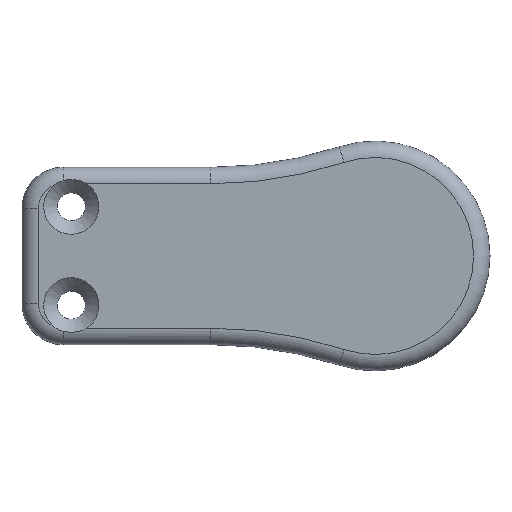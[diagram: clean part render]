
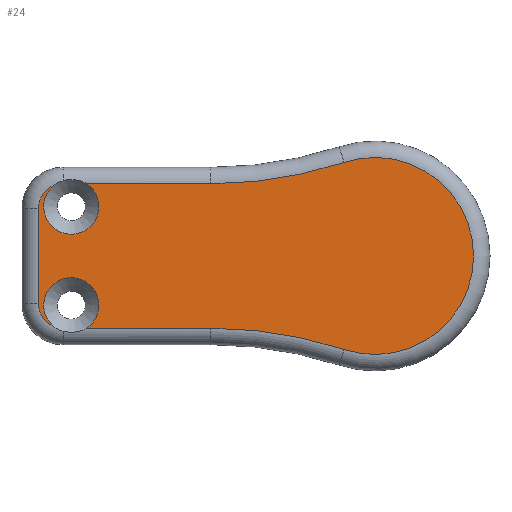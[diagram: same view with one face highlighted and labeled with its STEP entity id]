
A CAD part, top view. The second image highlights one B-rep face of the part: STEP entity #24.
In plain terms, the highlighted planar face has unit normal (0, 0, 1).
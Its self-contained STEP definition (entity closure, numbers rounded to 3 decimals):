
#1 = DIRECTION ( 'NONE',  ( 1., 0., 0. ) ) ;
#8 = VERTEX_POINT ( 'NONE', #438 ) ;
#22 = DIRECTION ( 'NONE',  ( 1., 0., 0. ) ) ;
#24 = ADVANCED_FACE ( 'NONE', ( #265 ), #985, .T. ) ;
#34 = ORIENTED_EDGE ( 'NONE', *, *, #835, .F. ) ;
#58 = CARTESIAN_POINT ( 'NONE',  ( -3.747, -11.4, 4. ) ) ;
#64 = DIRECTION ( 'NONE',  ( 0., -1., 0. ) ) ;
#66 = ORIENTED_EDGE ( 'NONE', *, *, #1003, .T. ) ;
#90 = DIRECTION ( 'NONE',  ( 1., 0., 0. ) ) ;
#94 = DIRECTION ( 'NONE',  ( -1., 0., 0. ) ) ;
#100 = ORIENTED_EDGE ( 'NONE', *, *, #338, .T. ) ;
#107 = AXIS2_PLACEMENT_3D ( 'NONE', #681, #885, #149 ) ;
#110 = ORIENTED_EDGE ( 'NONE', *, *, #645, .F. ) ;
#116 = EDGE_CURVE ( 'NONE', #605, #119, #323, .T. ) ;
#119 = VERTEX_POINT ( 'NONE', #996 ) ;
#122 = AXIS2_PLACEMENT_3D ( 'NONE', #808, #820, #22 ) ;
#144 = CIRCLE ( 'NONE', #1008, 3.36 ) ;
#145 = ORIENTED_EDGE ( 'NONE', *, *, #230, .T. ) ;
#149 = DIRECTION ( 'NONE',  ( 1., 0., 0. ) ) ;
#152 = DIRECTION ( 'NONE',  ( 0., 0., 1. ) ) ;
#230 = EDGE_CURVE ( 'NONE', #612, #966, #869, .T. ) ;
#240 = CARTESIAN_POINT ( 'NONE',  ( -37., 6., 4. ) ) ;
#242 = EDGE_LOOP ( 'NONE', ( #66, #744, #34, #1080, #880, #100, #435, #894, #110, #145 ) ) ;
#244 = DIRECTION ( 'NONE',  ( 1., 0., 0. ) ) ;
#265 = FACE_OUTER_BOUND ( 'NONE', #242, .T. ) ;
#307 = AXIS2_PLACEMENT_3D ( 'NONE', #761, #152, #767 ) ;
#323 = CIRCLE ( 'NONE', #122, 52. ) ;
#329 = CARTESIAN_POINT ( 'NONE',  ( 0., 0., 4. ) ) ;
#338 = EDGE_CURVE ( 'NONE', #903, #605, #677, .T. ) ;
#356 = CARTESIAN_POINT ( 'NONE',  ( -19.984, -8.8, 4. ) ) ;
#384 = AXIS2_PLACEMENT_3D ( 'NONE', #329, #1006, #542 ) ;
#401 = VERTEX_POINT ( 'NONE', #898 ) ;
#405 = CIRCLE ( 'NONE', #630, 52. ) ;
#427 = LINE ( 'NONE', #1155, #1115 ) ;
#435 = ORIENTED_EDGE ( 'NONE', *, *, #116, .T. ) ;
#438 = CARTESIAN_POINT ( 'NONE',  ( -19.984, -8.8, 4. ) ) ;
#447 = DIRECTION ( 'NONE',  ( 1., 0., 0. ) ) ;
#450 = CARTESIAN_POINT ( 'NONE',  ( -37., -6., 4. ) ) ;
#477 = VECTOR ( 'NONE', #64, 1000. ) ;
#536 = DIRECTION ( 'NONE',  ( 0., 0., -1. ) ) ;
#542 = DIRECTION ( 'NONE',  ( 1., 0., 0. ) ) ;
#605 = VERTEX_POINT ( 'NONE', #747 ) ;
#612 = VERTEX_POINT ( 'NONE', #654 ) ;
#630 = AXIS2_PLACEMENT_3D ( 'NONE', #709, #536, #1079 ) ;
#645 = EDGE_CURVE ( 'NONE', #612, #1001, #144, .T. ) ;
#654 = CARTESIAN_POINT ( 'NONE',  ( -39.177, 8.56, 4. ) ) ;
#677 = CIRCLE ( 'NONE', #107, 12. ) ;
#681 = CARTESIAN_POINT ( 'NONE',  ( 0., 0., 4. ) ) ;
#690 = VERTEX_POINT ( 'NONE', #791 ) ;
#709 = CARTESIAN_POINT ( 'NONE',  ( -19.984, -60.8, 4. ) ) ;
#728 = EDGE_CURVE ( 'NONE', #401, #790, #829, .T. ) ;
#733 = DIRECTION ( 'NONE',  ( 0., 0., 1. ) ) ;
#744 = ORIENTED_EDGE ( 'NONE', *, *, #728, .T. ) ;
#747 = CARTESIAN_POINT ( 'NONE',  ( -3.747, 11.4, 4. ) ) ;
#761 = CARTESIAN_POINT ( 'NONE',  ( -38., 5.8, 4. ) ) ;
#767 = DIRECTION ( 'NONE',  ( 1., 0., 0. ) ) ;
#772 = DIRECTION ( 'NONE',  ( 0., 0., 1. ) ) ;
#790 = VERTEX_POINT ( 'NONE', #982 ) ;
#791 = CARTESIAN_POINT ( 'NONE',  ( -35.143, -8.8, 4. ) ) ;
#808 = CARTESIAN_POINT ( 'NONE',  ( -19.984, 60.8, 4. ) ) ;
#820 = DIRECTION ( 'NONE',  ( 0., 0., -1. ) ) ;
#829 = CIRCLE ( 'NONE', #995, 3. ) ;
#835 = EDGE_CURVE ( 'NONE', #690, #790, #990, .T. ) ;
#849 = AXIS2_PLACEMENT_3D ( 'NONE', #450, #733, #90 ) ;
#853 = VECTOR ( 'NONE', #447, 1000. ) ;
#863 = LINE ( 'NONE', #1129, #477 ) ;
#869 = CIRCLE ( 'NONE', #307, 3. ) ;
#880 = ORIENTED_EDGE ( 'NONE', *, *, #1145, .T. ) ;
#885 = DIRECTION ( 'NONE',  ( 0., 0., 1. ) ) ;
#894 = ORIENTED_EDGE ( 'NONE', *, *, #1024, .T. ) ;
#898 = CARTESIAN_POINT ( 'NONE',  ( -41., -5.8, 4. ) ) ;
#903 = VERTEX_POINT ( 'NONE', #58 ) ;
#939 = CARTESIAN_POINT ( 'NONE',  ( -41., 5.8, 4. ) ) ;
#966 = VERTEX_POINT ( 'NONE', #939 ) ;
#975 = LINE ( 'NONE', #356, #853 ) ;
#982 = CARTESIAN_POINT ( 'NONE',  ( -39.177, -8.56, 4. ) ) ;
#985 = PLANE ( 'NONE',  #384 ) ;
#990 = CIRCLE ( 'NONE', #849, 3.36 ) ;
#995 = AXIS2_PLACEMENT_3D ( 'NONE', #1132, #772, #1 ) ;
#996 = CARTESIAN_POINT ( 'NONE',  ( -19.984, 8.8, 4. ) ) ;
#1001 = VERTEX_POINT ( 'NONE', #1040 ) ;
#1003 = EDGE_CURVE ( 'NONE', #966, #401, #863, .T. ) ;
#1006 = DIRECTION ( 'NONE',  ( 0., 0., 1. ) ) ;
#1008 = AXIS2_PLACEMENT_3D ( 'NONE', #240, #1143, #244 ) ;
#1024 = EDGE_CURVE ( 'NONE', #119, #1001, #427, .T. ) ;
#1040 = CARTESIAN_POINT ( 'NONE',  ( -35.143, 8.8, 4. ) ) ;
#1079 = DIRECTION ( 'NONE',  ( 1., 0., 0. ) ) ;
#1080 = ORIENTED_EDGE ( 'NONE', *, *, #1119, .T. ) ;
#1115 = VECTOR ( 'NONE', #94, 1000. ) ;
#1119 = EDGE_CURVE ( 'NONE', #690, #8, #975, .T. ) ;
#1129 = CARTESIAN_POINT ( 'NONE',  ( -41., -5.8, 4. ) ) ;
#1132 = CARTESIAN_POINT ( 'NONE',  ( -38., -5.8, 4. ) ) ;
#1143 = DIRECTION ( 'NONE',  ( 0., 0., 1. ) ) ;
#1145 = EDGE_CURVE ( 'NONE', #8, #903, #405, .T. ) ;
#1155 = CARTESIAN_POINT ( 'NONE',  ( -38., 8.8, 4. ) ) ;
